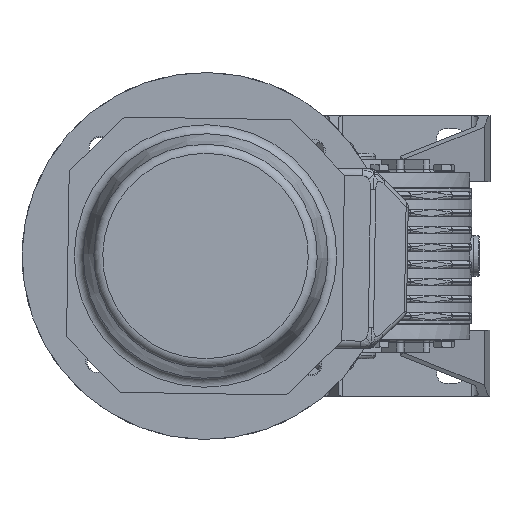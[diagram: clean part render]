
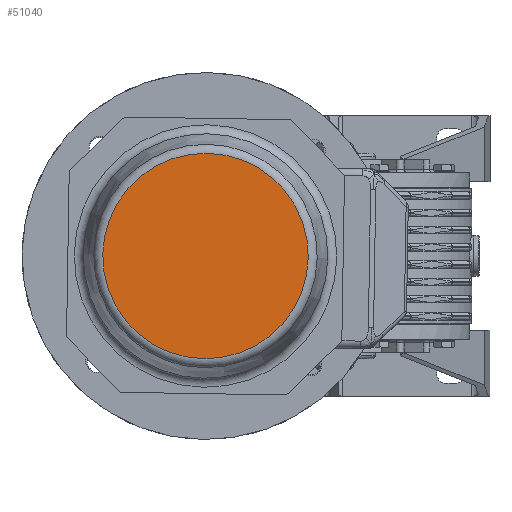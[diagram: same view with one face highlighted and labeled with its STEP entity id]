
A CAD part, left-side view. The second image highlights one B-rep face of the part: STEP entity #51040.
In plain terms, the highlighted planar face has unit normal (-1, 0, 0) as drawn and (1, 0, 0) by its records, which use the part's own axes.
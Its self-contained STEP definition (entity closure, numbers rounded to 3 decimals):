
#51017=CARTESIAN_POINT('',(265.0,0.0,55.983));
#51018=VERTEX_POINT('',#51017);
#51019=CARTESIAN_POINT('',(265.0,0.0,0.0));
#51020=DIRECTION('',(-1.0,0.0,0.0));
#51021=DIRECTION('',(0.0,0.0,-1.0));
#51022=AXIS2_PLACEMENT_3D('',#51019,#51020,#51021);
#51023=CIRCLE('',#51022,55.983);
#51024=EDGE_CURVE('',#51018,#51018,#51023,.T.);
#51032=CARTESIAN_POINT('',(265.0,0.0,30.0));
#51033=DIRECTION('',(1.0,0.0,0.0));
#51034=DIRECTION('',(0.0,0.0,-1.0));
#51035=AXIS2_PLACEMENT_3D('',#51032,#51033,#51034);
#51036=PLANE('',#51035);
#51037=ORIENTED_EDGE('',*,*,#51024,.F.);
#51038=EDGE_LOOP('',(#51037));
#51039=FACE_OUTER_BOUND('',#51038,.T.);
#51040=ADVANCED_FACE('',(#51039),#51036,.T.);
